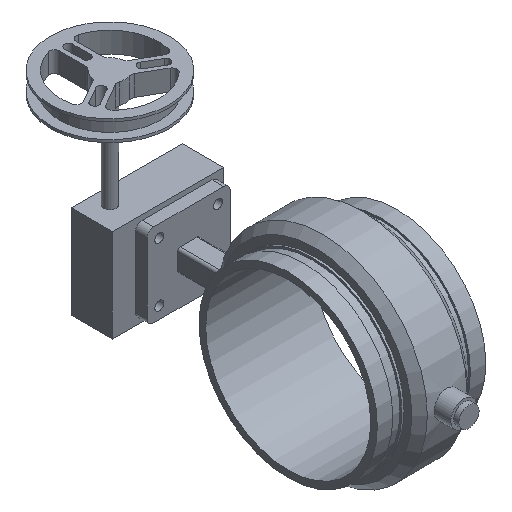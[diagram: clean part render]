
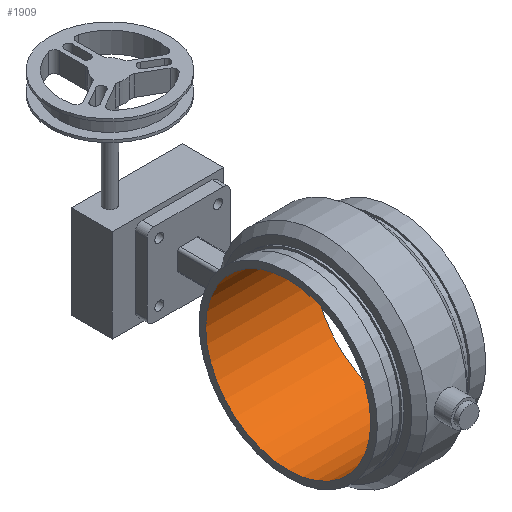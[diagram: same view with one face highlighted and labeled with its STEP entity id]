
A CAD part, isometric view. The second image highlights one B-rep face of the part: STEP entity #1909.
In plain terms, the highlighted cylindrical face has radius 101.359 mm (diameter 202.717 mm), a full revolution.
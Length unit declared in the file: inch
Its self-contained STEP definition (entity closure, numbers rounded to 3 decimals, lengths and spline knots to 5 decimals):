
#190=FACE_OUTER_BOUND('',#317,.T.);
#317=EDGE_LOOP('',(#1601,#1602,#1603,#1604,#1605,#1606));
#458=LINE('',#3329,#583);
#583=VECTOR('',#2671,3.9905);
#691=CIRCLE('',#2134,3.9905);
#692=CIRCLE('',#2135,3.9905);
#693=CIRCLE('',#2136,3.9905);
#694=CIRCLE('',#2137,3.9905);
#870=VERTEX_POINT('',#3325);
#871=VERTEX_POINT('',#3326);
#872=VERTEX_POINT('',#3328);
#873=VERTEX_POINT('',#3330);
#1121=EDGE_CURVE('',#870,#871,#691,.T.);
#1122=EDGE_CURVE('',#871,#872,#458,.T.);
#1123=EDGE_CURVE('',#873,#872,#692,.T.);
#1124=EDGE_CURVE('',#872,#873,#693,.T.);
#1125=EDGE_CURVE('',#871,#870,#694,.T.);
#1601=ORIENTED_EDGE('',*,*,#1121,.T.);
#1602=ORIENTED_EDGE('',*,*,#1122,.T.);
#1603=ORIENTED_EDGE('',*,*,#1123,.F.);
#1604=ORIENTED_EDGE('',*,*,#1124,.F.);
#1605=ORIENTED_EDGE('',*,*,#1122,.F.);
#1606=ORIENTED_EDGE('',*,*,#1125,.T.);
#1714=CYLINDRICAL_SURFACE('',#2133,3.9905);
#1909=ADVANCED_FACE('',(#190),#1714,.F.);
#2133=AXIS2_PLACEMENT_3D('',#3324,#2667,#2668);
#2134=AXIS2_PLACEMENT_3D('',#3327,#2669,#2670);
#2135=AXIS2_PLACEMENT_3D('',#3331,#2672,#2673);
#2136=AXIS2_PLACEMENT_3D('',#3332,#2674,#2675);
#2137=AXIS2_PLACEMENT_3D('',#3333,#2676,#2677);
#2667=DIRECTION('center_axis',(1.,0.,0.));
#2668=DIRECTION('ref_axis',(0.,1.,0.));
#2669=DIRECTION('center_axis',(1.,0.,0.));
#2670=DIRECTION('ref_axis',(0.,0.,-1.));
#2671=DIRECTION('',(-1.,0.,0.));
#2672=DIRECTION('center_axis',(1.,0.,0.));
#2673=DIRECTION('ref_axis',(0.,0.,-1.));
#2674=DIRECTION('center_axis',(1.,0.,0.));
#2675=DIRECTION('ref_axis',(0.,0.,-1.));
#2676=DIRECTION('center_axis',(1.,0.,0.));
#2677=DIRECTION('ref_axis',(0.,0.,-1.));
#3324=CARTESIAN_POINT('Origin',(0.,0.,
0.));
#3325=CARTESIAN_POINT('',(2.625,0.,-3.9905));
#3326=CARTESIAN_POINT('',(2.625,-3.9905,0.));
#3327=CARTESIAN_POINT('Origin',(2.625,0.,0.));
#3328=CARTESIAN_POINT('',(-2.625,-3.9905,0.));
#3329=CARTESIAN_POINT('',(0.,-3.9905,0.));
#3330=CARTESIAN_POINT('',(-2.625,3.9905,0.));
#3331=CARTESIAN_POINT('Origin',(-2.625,0.,0.));
#3332=CARTESIAN_POINT('Origin',(-2.625,0.,0.));
#3333=CARTESIAN_POINT('Origin',(2.625,0.,0.));
